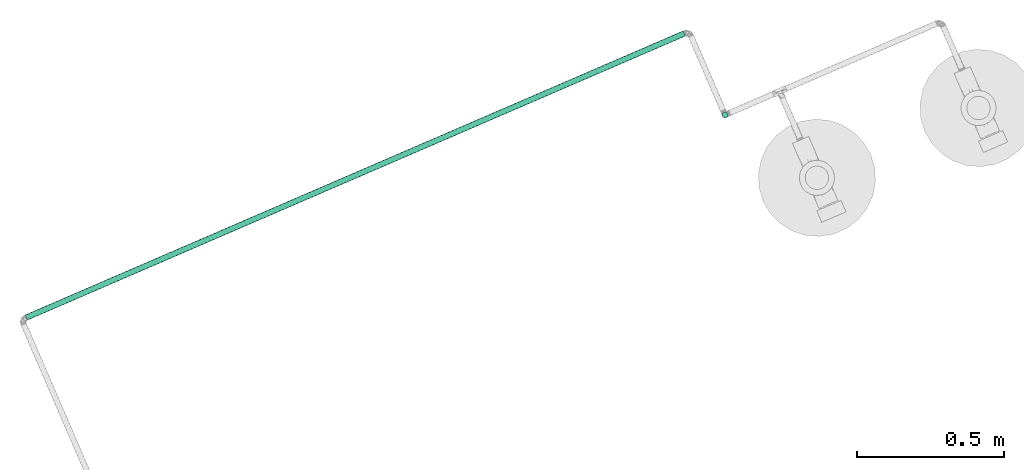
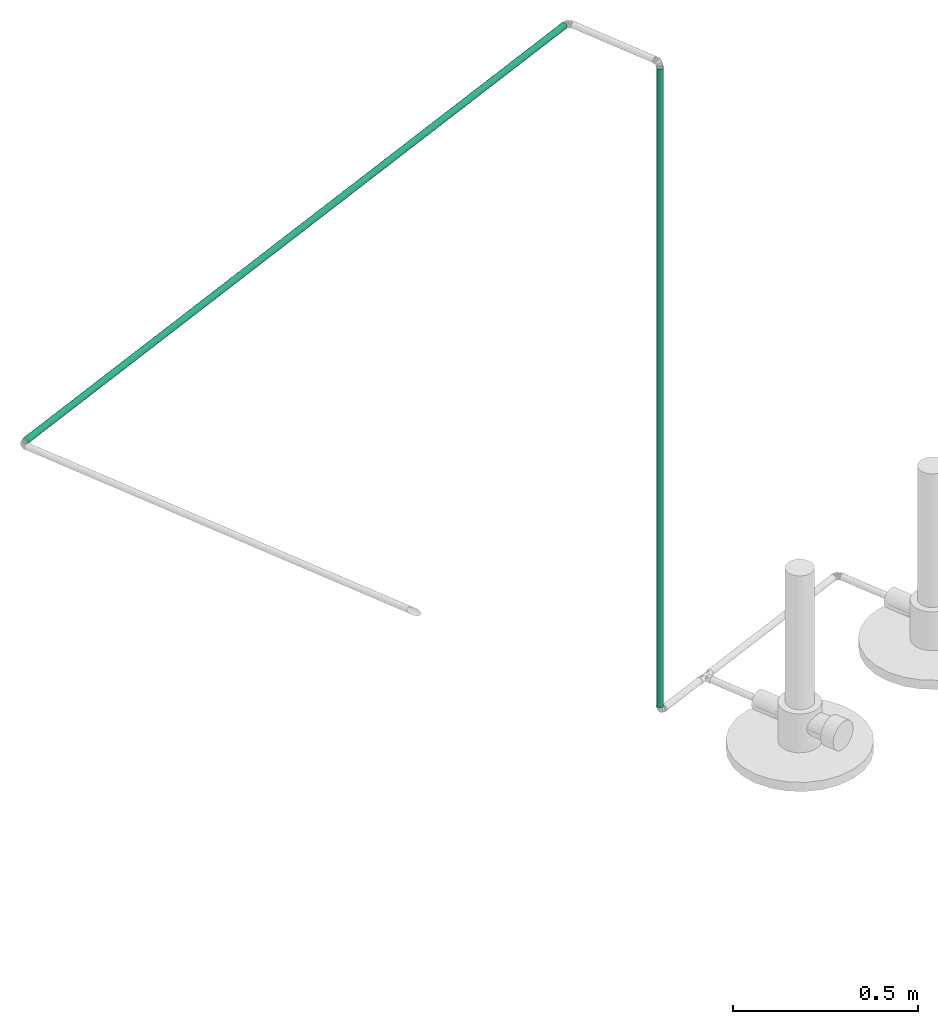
# One storey, part 9 of 26: 2 pipe segments.
"""IFC4 building model written with IfcOpenShell, lengths in metres."""

from ifc_helpers import new_model, entity, si_unit, converted_unit, derived_unit, direction, frame, origin, place, context, subcontext, project, spatial, arc, indexed_curve, outline, extrude, material, type_object, element, save


model = new_model("IFC4")

# Units and contexts
model_context = context("Model", 3, precision=1e-05, world=origin(), true_north=direction((6.12323399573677e-17, 1.0)))
body_context = subcontext(model_context, "Body", "Model", "MODEL_VIEW")
ifc_project = project(units=[si_unit("LENGTHUNIT", "METRE"), si_unit("AREAUNIT", "SQUARE_METRE"), si_unit("VOLUMEUNIT", "CUBIC_METRE"), si_unit("PRESSUREUNIT", "PASCAL"), derived_unit("VOLUMETRICFLOWRATEUNIT", [(si_unit("LENGTHUNIT", "METRE", prefix="DECI"), 3), (si_unit("TIMEUNIT", "SECOND"), -1)]), converted_unit("PLANEANGLEUNIT", "DEGREE", entity("IfcPlaneAngleMeasure", 0.0174532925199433), si_unit("PLANEANGLEUNIT", "RADIAN"), dimensions=[0, 0, 0, 0, 0, 0, 0])], contexts=[model_context])

# Site, building, storey
site_placement = place(None, origin())
site = spatial("IfcSite", under=ifc_project, at=site_placement, Name="Default", CompositionType="ELEMENT")
building_placement = place(site_placement, frame((24.575451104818, -55.896759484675, 317.15), z_axis=(0.0, 0.0, 1.0), x_axis=(-0.396377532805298, 0.918087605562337, 0.0)))
building = spatial("IfcBuilding", under=site, at=building_placement, CompositionType="ELEMENT")
storey_placement = place(building_placement, origin())
storey = spatial("IfcBuildingStorey", under=building, at=storey_placement, Name="Nivel 1", CompositionType="ELEMENT", Elevation=0.0)

# Pipe segments
ifc_material = material(Name="Cobre", Category="Undefined")
pipe_segment_type = type_object("IfcPipeSegmentType", Name="Pipe Types:GAS", PredefinedType="NOTDEFINED")
pipe_segment_1_placement = place(storey_placement, origin())
element("IfcPipeSegment", 1, at=pipe_segment_1_placement, inside=storey, type_object=pipe_segment_type, material=ifc_material, Name="Pipe Types:GAS", ObjectType="Pipe Types:GAS", PredefinedType="NOTDEFINED", context=body_context, shape_type="SweptSolid", body=[
    extrude(outline(indexed_curve([(0.0100000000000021, 5.98165343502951e-32), (0.00707106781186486, 0.0070710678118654), (-5.98165343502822e-32, 0.00999999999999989), (-0.00707106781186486, 0.0070710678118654), (-0.0100000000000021, -5.98165343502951e-32), (-0.00707106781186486, -0.0070710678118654), (5.98165343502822e-32, -0.00999999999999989), (0.00707106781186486, -0.0070710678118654)], segments=[arc(1, 2, 3), arc(3, 4, 5), arc(5, 6, 7), arc(7, 8, 1)], self_intersect=False)), frame((35.2787146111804, 40.0538766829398, 3.0), z_axis=(0.0, 1.0, 0.0), x_axis=(1.0, 0.0, 0.0)), (0.0, 0.0, 1.0), 2.44253750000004),
])
pipe_segment_2_placement = place(storey_placement, origin())
element("IfcPipeSegment", 2, at=pipe_segment_2_placement, inside=storey, type_object=pipe_segment_type, material=ifc_material, Name="Pipe Types:GAS", ObjectType="Pipe Types:GAS", PredefinedType="NOTDEFINED", context=body_context, shape_type="SweptSolid", body=[
    extrude(outline(indexed_curve([(0.0100000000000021, 0.0), (0.00707106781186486, 0.00707106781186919), (0.0, 0.00999999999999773), (-0.00707106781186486, 0.00707106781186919), (-0.0100000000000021, 0.0), (-0.00707106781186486, -0.00707106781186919), (0.0, -0.00999999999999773), (0.00707106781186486, -0.00707106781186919)], segments=[arc(1, 2, 3), arc(3, 4, 5), arc(5, 6, 7), arc(7, 8, 1)], self_intersect=False)), frame((34.9687146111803, 40.0364141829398, 0.872962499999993), z_axis=(0.0, 0.0, 1.0), x_axis=(-1.0, 0.0, 0.0)), (0.0, 0.0, 1.0), 2.10957500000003),
])

save(model, "model.ifc")
